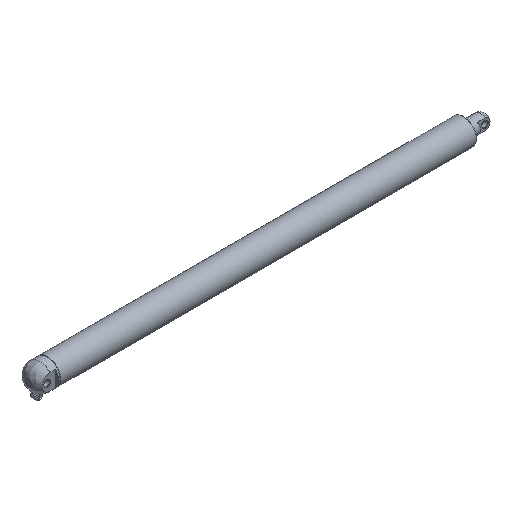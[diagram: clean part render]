
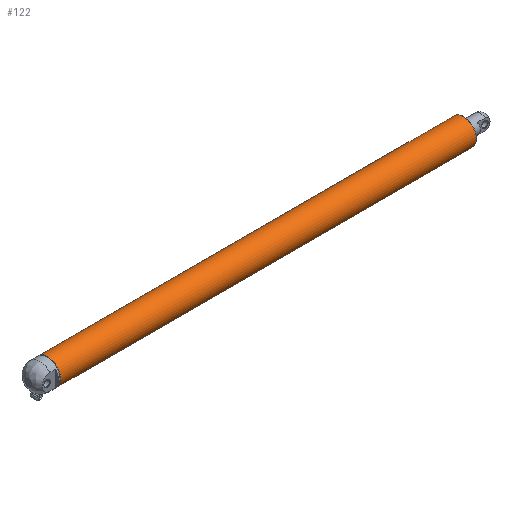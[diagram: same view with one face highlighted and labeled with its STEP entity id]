
A CAD part, isometric view. The second image highlights one B-rep face of the part: STEP entity #122.
In plain terms, the highlighted cylindrical face has radius 22.5 mm (diameter 45 mm), a full revolution.
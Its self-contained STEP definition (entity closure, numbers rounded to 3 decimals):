
#122 = ADVANCED_FACE( '', ( #289, #290 ), #291, .T. );
#289 = FACE_OUTER_BOUND( '', #517, .T. );
#290 = FACE_OUTER_BOUND( '', #518, .T. );
#291 = CYLINDRICAL_SURFACE( '', #519, 22.5 );
#517 = EDGE_LOOP( '', ( #911 ) );
#518 = EDGE_LOOP( '', ( #912 ) );
#519 = AXIS2_PLACEMENT_3D( '', #913, #914, #915 );
#911 = ORIENTED_EDGE( '', *, *, #1355, .T. );
#912 = ORIENTED_EDGE( '', *, *, #1356, .T. );
#913 = CARTESIAN_POINT( '', ( 723., 0., 0. ) );
#914 = DIRECTION( '', ( 1., 0., 0. ) );
#915 = DIRECTION( '', ( 0., 0., 1. ) );
#1355 = EDGE_CURVE( '', #1611, #1611, #1612, .F. );
#1356 = EDGE_CURVE( '', #1613, #1613, #1614, .T. );
#1611 = VERTEX_POINT( '', #2049 );
#1612 = CIRCLE( '', #2050, 22.5 );
#1613 = VERTEX_POINT( '', #2051 );
#1614 = CIRCLE( '', #2052, 22.5 );
#2049 = CARTESIAN_POINT( '', ( 0.5, 0., 22.5 ) );
#2050 = AXIS2_PLACEMENT_3D( '', #2495, #2496, #2497 );
#2051 = CARTESIAN_POINT( '', ( 722.5, 0., 22.5 ) );
#2052 = AXIS2_PLACEMENT_3D( '', #2498, #2499, #2500 );
#2495 = CARTESIAN_POINT( '', ( 0.5, 0., 0. ) );
#2496 = DIRECTION( '', ( -1., 0., 0. ) );
#2497 = DIRECTION( '', ( 0., 0., 1. ) );
#2498 = CARTESIAN_POINT( '', ( 722.5, 0., 0. ) );
#2499 = DIRECTION( '', ( -1., 0., 0. ) );
#2500 = DIRECTION( '', ( 0., 0., 1. ) );
